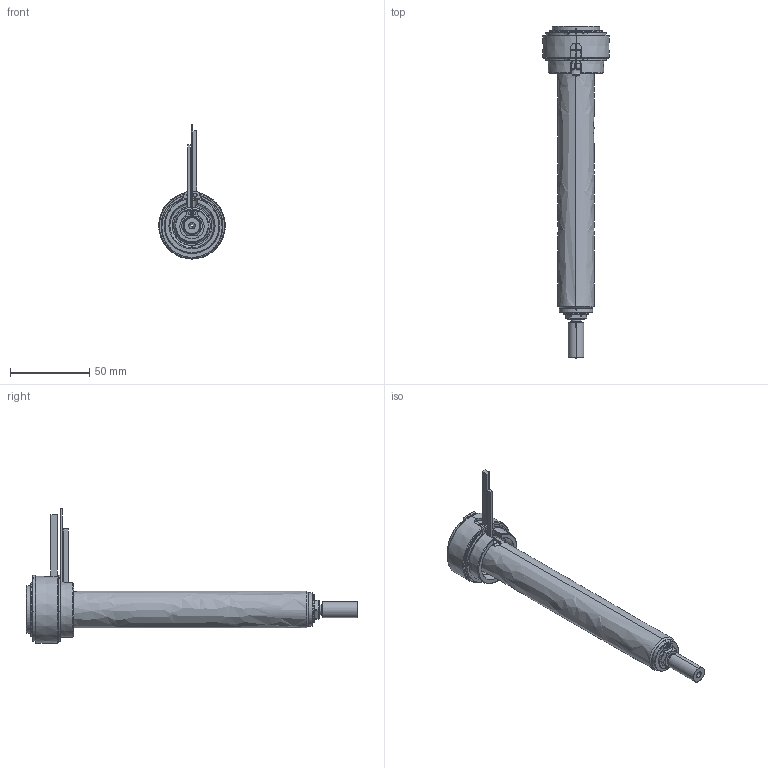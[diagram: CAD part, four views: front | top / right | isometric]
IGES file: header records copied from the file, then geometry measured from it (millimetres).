
Start section: SolidWorks IGES file using analytic representation for surfaces
Global section: file name: C:\Users\luca.EMPAD\Desktop\TEM\UGBE3504-M-A-P-3 [Ød-1.5 P-20 ØC-7.0].IGS; native system: SolidWorks 2012; preprocessor: SolidWorks 2012; author: luca; date: 120330.140603; units: millimetre
Bounding box: 42 x 209 x 84.4 mm (x, y, z)
Surface area: 35909 mm2 (no closed solid volume)
Topology: 0 solids, 0 shells, 183 faces, 3238 edges, 3238 vertices
Faces by surface type: revolution 117, bspline 66
